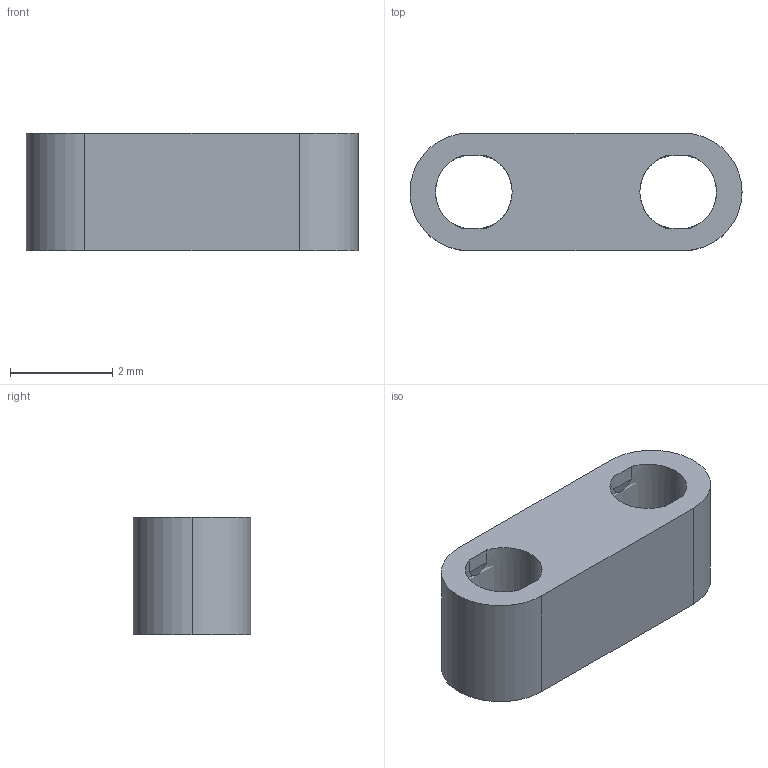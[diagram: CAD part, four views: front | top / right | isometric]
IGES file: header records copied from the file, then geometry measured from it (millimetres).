
Start section:  PTC IGES file: housing__w___any_prt.igs
Global section: file name: housing__w___any_prt.igs; native system: Pro/ENGINEER by Parametric Technology Corporation; preprocessor: 2006170; author: GRA; organization: Unknown; date: 20080630.105154; units: millimetre
Bounding box: 6.5 x 2.3 x 2.3 mm (x, y, z)
Surface area: 77.7 mm2 (no closed solid volume)
Topology: 0 solids, 0 shells, 23 faces, 118 edges, 118 vertices
Faces by surface type: bspline 12, revolution 11
